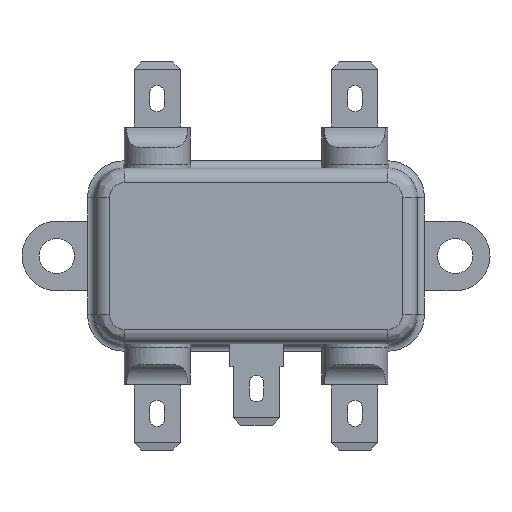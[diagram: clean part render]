
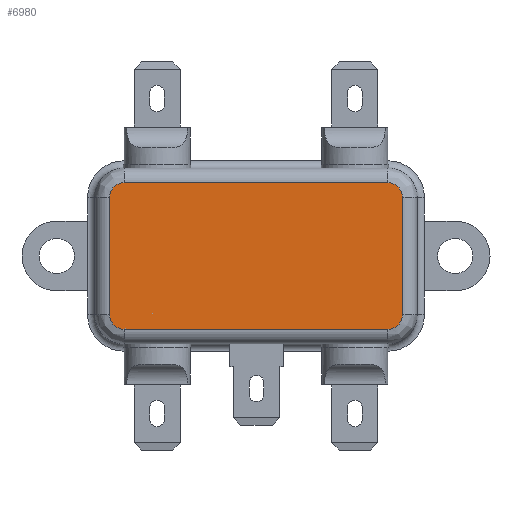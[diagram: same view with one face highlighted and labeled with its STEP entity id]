
A CAD part, front view. The second image highlights one B-rep face of the part: STEP entity #6980.
In plain terms, the highlighted planar face has unit normal (0, -1, 0).
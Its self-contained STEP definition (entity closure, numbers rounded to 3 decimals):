
#198 = CARTESIAN_POINT ( 'NONE',  ( 13.958, 0., -5. ) ) ;
#987 = CARTESIAN_POINT ( 'NONE',  ( 13.958, 0., -21. ) ) ;
#1005 = AXIS2_PLACEMENT_3D ( 'NONE', #8927, #22029, #10817 ) ;
#1932 = CARTESIAN_POINT ( 'NONE',  ( 13.958, 0., -3. ) ) ;
#2102 = DIRECTION ( 'NONE',  ( -1., 0., 0. ) ) ;
#2175 = CARTESIAN_POINT ( 'NONE',  ( 13.958, 0., -23. ) ) ;
#2244 = LINE ( 'NONE', #18901, #21647 ) ;
#2263 = VERTEX_POINT ( 'NONE', #7705 ) ;
#2357 = EDGE_CURVE ( 'NONE', #2547, #16664, #8648, .T. ) ;
#2419 = CARTESIAN_POINT ( 'NONE',  ( 11.958, 0., -5. ) ) ;
#2547 = VERTEX_POINT ( 'NONE', #6960 ) ;
#2584 = ORIENTED_EDGE ( 'NONE', *, *, #23838, .F. ) ;
#2621 = AXIS2_PLACEMENT_3D ( 'NONE', #14166, #2904, #16053 ) ;
#2902 = DIRECTION ( 'NONE',  ( 0., 0., -1. ) ) ;
#2904 = DIRECTION ( 'NONE',  ( 0., 1., 0. ) ) ;
#3458 = AXIS2_PLACEMENT_3D ( 'NONE', #9228, #22321, #11095 ) ;
#3594 = EDGE_CURVE ( 'NONE', #12237, #14155, #10856, .T. ) ;
#4274 = FACE_OUTER_BOUND ( 'NONE', #14643, .T. ) ;
#4818 = AXIS2_PLACEMENT_3D ( 'NONE', #198, #13369, #2102 ) ;
#5102 = AXIS2_PLACEMENT_3D ( 'NONE', #987, #14162, #2902 ) ;
#5288 = CARTESIAN_POINT ( 'NONE',  ( 49.958, 0., -3. ) ) ;
#5841 = ORIENTED_EDGE ( 'NONE', *, *, #2357, .T. ) ;
#6544 = CIRCLE ( 'NONE', #3458, 2. ) ;
#6607 = PLANE ( 'NONE',  #2621 ) ;
#6903 = CARTESIAN_POINT ( 'NONE',  ( 49.958, 0., -23. ) ) ;
#6960 = CARTESIAN_POINT ( 'NONE',  ( 13.958, 0., -23. ) ) ;
#6980 = ADVANCED_FACE ( 'NONE', ( #4274 ), #6607, .F. ) ;
#7705 = CARTESIAN_POINT ( 'NONE',  ( 51.958, 0., -21. ) ) ;
#8637 = ORIENTED_EDGE ( 'NONE', *, *, #23586, .T. ) ;
#8648 = LINE ( 'NONE', #2175, #18026 ) ;
#8927 = CARTESIAN_POINT ( 'NONE',  ( 49.958, 0., -5. ) ) ;
#9034 = CARTESIAN_POINT ( 'NONE',  ( 49.958, 0., -3. ) ) ;
#9228 = CARTESIAN_POINT ( 'NONE',  ( 49.958, 0., -21. ) ) ;
#10817 = DIRECTION ( 'NONE',  ( 0., 0., 1. ) ) ;
#10856 = CIRCLE ( 'NONE', #1005, 2. ) ;
#10913 = CARTESIAN_POINT ( 'NONE',  ( 51.958, 0., -21. ) ) ;
#10916 = ORIENTED_EDGE ( 'NONE', *, *, #15480, .T. ) ;
#11095 = DIRECTION ( 'NONE',  ( 1., 0., 0. ) ) ;
#11147 = VERTEX_POINT ( 'NONE', #17793 ) ;
#11321 = LINE ( 'NONE', #9034, #16302 ) ;
#11438 = EDGE_CURVE ( 'NONE', #13525, #11147, #2244, .T. ) ;
#11465 = ORIENTED_EDGE ( 'NONE', *, *, #21091, .F. ) ;
#12237 = VERTEX_POINT ( 'NONE', #5288 ) ;
#13369 = DIRECTION ( 'NONE',  ( 0., 1., 0. ) ) ;
#13440 = DIRECTION ( 'NONE',  ( 1., 0., 0. ) ) ;
#13525 = VERTEX_POINT ( 'NONE', #2419 ) ;
#14155 = VERTEX_POINT ( 'NONE', #21353 ) ;
#14162 = DIRECTION ( 'NONE',  ( 0., 1., 0. ) ) ;
#14166 = CARTESIAN_POINT ( 'NONE',  ( 31.958, 0., -13. ) ) ;
#14379 = VERTEX_POINT ( 'NONE', #1932 ) ;
#14606 = CIRCLE ( 'NONE', #4818, 2. ) ;
#14643 = EDGE_LOOP ( 'NONE', ( #5841, #11465, #10916, #21681, #8637, #19793, #14872, #2584 ) ) ;
#14872 = ORIENTED_EDGE ( 'NONE', *, *, #11438, .T. ) ;
#14966 = LINE ( 'NONE', #10913, #19920 ) ;
#15480 = EDGE_CURVE ( 'NONE', #2263, #14155, #14966, .T. ) ;
#16053 = DIRECTION ( 'NONE',  ( 1., 0., 0. ) ) ;
#16302 = VECTOR ( 'NONE', #22208, 1000. ) ;
#16664 = VERTEX_POINT ( 'NONE', #6903 ) ;
#17793 = CARTESIAN_POINT ( 'NONE',  ( 11.958, 0., -21. ) ) ;
#18026 = VECTOR ( 'NONE', #13440, 1000. ) ;
#18901 = CARTESIAN_POINT ( 'NONE',  ( 11.958, 0., -5. ) ) ;
#19576 = EDGE_CURVE ( 'NONE', #13525, #14379, #14606, .T. ) ;
#19793 = ORIENTED_EDGE ( 'NONE', *, *, #19576, .F. ) ;
#19920 = VECTOR ( 'NONE', #22125, 1000. ) ;
#20678 = CIRCLE ( 'NONE', #5102, 2. ) ;
#20792 = DIRECTION ( 'NONE',  ( 0., 0., -1. ) ) ;
#21091 = EDGE_CURVE ( 'NONE', #2263, #16664, #6544, .T. ) ;
#21353 = CARTESIAN_POINT ( 'NONE',  ( 51.958, 0., -5. ) ) ;
#21647 = VECTOR ( 'NONE', #20792, 1000. ) ;
#21681 = ORIENTED_EDGE ( 'NONE', *, *, #3594, .F. ) ;
#22029 = DIRECTION ( 'NONE',  ( 0., 1., 0. ) ) ;
#22125 = DIRECTION ( 'NONE',  ( 0., 0., 1. ) ) ;
#22208 = DIRECTION ( 'NONE',  ( -1., 0., 0. ) ) ;
#22321 = DIRECTION ( 'NONE',  ( 0., 1., 0. ) ) ;
#23586 = EDGE_CURVE ( 'NONE', #12237, #14379, #11321, .T. ) ;
#23838 = EDGE_CURVE ( 'NONE', #2547, #11147, #20678, .T. ) ;
